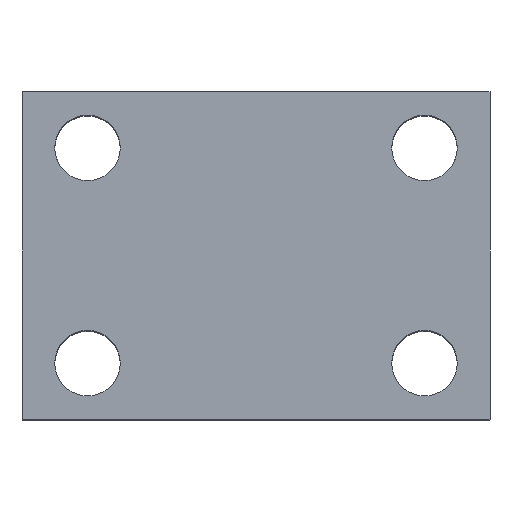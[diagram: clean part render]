
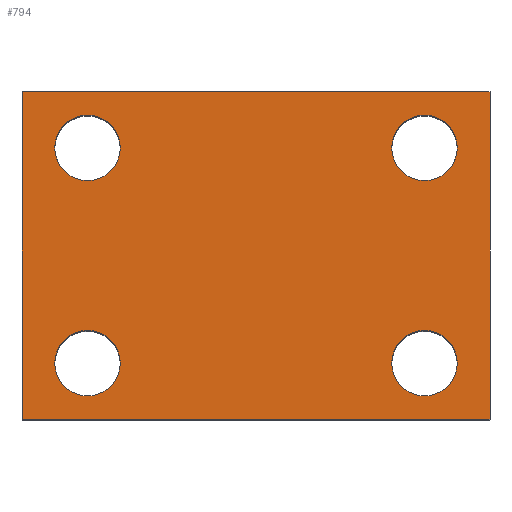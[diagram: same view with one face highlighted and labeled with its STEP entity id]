
A CAD part, top view. The second image highlights one B-rep face of the part: STEP entity #794.
In plain terms, the highlighted planar face has unit normal (0, 0, 1).
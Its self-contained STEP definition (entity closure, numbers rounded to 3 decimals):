
#103 = AXIS2_PLACEMENT_3D ( 'NONE', #9722, #1504, #11087 ) ;
#264 = CIRCLE ( 'NONE', #8173, 3.5 ) ;
#370 = CARTESIAN_POINT ( 'NONE',  ( 18., 29., 40. ) ) ;
#506 = AXIS2_PLACEMENT_3D ( 'NONE', #1613, #12541, #4378 ) ;
#580 = EDGE_CURVE ( 'NONE', #8445, #14776, #264, .T. ) ;
#794 = ADVANCED_FACE ( 'NONE', ( #15425, #8583, #15847, #11798, #8155 ), #16633, .F. ) ;
#916 = CIRCLE ( 'NONE', #12650, 3.5 ) ;
#953 = DIRECTION ( 'NONE',  ( 0., -1., 0. ) ) ;
#964 = CARTESIAN_POINT ( 'NONE',  ( 18., 6., 40. ) ) ;
#1024 = EDGE_CURVE ( 'NONE', #8146, #3020, #14105, .T. ) ;
#1504 = DIRECTION ( 'NONE',  ( 0., 0., -1. ) ) ;
#1613 = CARTESIAN_POINT ( 'NONE',  ( -25., 35., 40. ) ) ;
#1742 = DIRECTION ( 'NONE',  ( -1., 0., 0. ) ) ;
#1746 = CIRCLE ( 'NONE', #5599, 3.5 ) ;
#1778 = CARTESIAN_POINT ( 'NONE',  ( 21.5, 6., 40. ) ) ;
#1821 = VECTOR ( 'NONE', #5293, 1000. ) ;
#1990 = EDGE_LOOP ( 'NONE', ( #17135, #14989, #16465, #2832 ) ) ;
#2027 = CARTESIAN_POINT ( 'NONE',  ( -14.5, 29., 40. ) ) ;
#2258 = LINE ( 'NONE', #17529, #1821 ) ;
#2287 = VERTEX_POINT ( 'NONE', #8759 ) ;
#2344 = DIRECTION ( 'NONE',  ( -1., 0., 0. ) ) ;
#2535 = CARTESIAN_POINT ( 'NONE',  ( 14.5, 6., 40. ) ) ;
#2614 = EDGE_CURVE ( 'NONE', #2287, #14369, #3458, .T. ) ;
#2678 = EDGE_LOOP ( 'NONE', ( #6881, #14215 ) ) ;
#2832 = ORIENTED_EDGE ( 'NONE', *, *, #13776, .T. ) ;
#2863 = CARTESIAN_POINT ( 'NONE',  ( 18., 29., 40. ) ) ;
#2988 = CARTESIAN_POINT ( 'NONE',  ( 14.5, 29., 40. ) ) ;
#3020 = VERTEX_POINT ( 'NONE', #12078 ) ;
#3458 = LINE ( 'NONE', #16963, #4318 ) ;
#4067 = CIRCLE ( 'NONE', #14244, 3.5 ) ;
#4231 = DIRECTION ( 'NONE',  ( -1., 0., 0. ) ) ;
#4318 = VECTOR ( 'NONE', #8756, 1000. ) ;
#4378 = DIRECTION ( 'NONE',  ( -1., 0., 0. ) ) ;
#4557 = CARTESIAN_POINT ( 'NONE',  ( -14.5, 6., 40. ) ) ;
#5065 = EDGE_CURVE ( 'NONE', #14776, #8445, #13576, .T. ) ;
#5114 = AXIS2_PLACEMENT_3D ( 'NONE', #964, #10570, #2344 ) ;
#5127 = VECTOR ( 'NONE', #11929, 1000. ) ;
#5128 = VERTEX_POINT ( 'NONE', #11900 ) ;
#5221 = EDGE_CURVE ( 'NONE', #15146, #13927, #2258, .T. ) ;
#5223 = CARTESIAN_POINT ( 'NONE',  ( 18., 6., 40. ) ) ;
#5293 = DIRECTION ( 'NONE',  ( 1., 0., 0. ) ) ;
#5486 = DIRECTION ( 'NONE',  ( 0., 0., -1. ) ) ;
#5599 = AXIS2_PLACEMENT_3D ( 'NONE', #13774, #5647, #15160 ) ;
#5615 = DIRECTION ( 'NONE',  ( 0., 0., -1. ) ) ;
#5647 = DIRECTION ( 'NONE',  ( 0., 0., -1. ) ) ;
#6340 = EDGE_LOOP ( 'NONE', ( #8204, #14662 ) ) ;
#6570 = DIRECTION ( 'NONE',  ( -1., 0., 0. ) ) ;
#6667 = EDGE_CURVE ( 'NONE', #5128, #16786, #916, .T. ) ;
#6758 = CARTESIAN_POINT ( 'NONE',  ( -25., 0., 40. ) ) ;
#6881 = ORIENTED_EDGE ( 'NONE', *, *, #13522, .T. ) ;
#7140 = ORIENTED_EDGE ( 'NONE', *, *, #580, .T. ) ;
#7405 = EDGE_CURVE ( 'NONE', #3020, #8146, #1746, .T. ) ;
#8146 = VERTEX_POINT ( 'NONE', #4557 ) ;
#8155 = FACE_OUTER_BOUND ( 'NONE', #1990, .T. ) ;
#8173 = AXIS2_PLACEMENT_3D ( 'NONE', #5223, #14719, #6570 ) ;
#8204 = ORIENTED_EDGE ( 'NONE', *, *, #7405, .T. ) ;
#8445 = VERTEX_POINT ( 'NONE', #1778 ) ;
#8571 = CARTESIAN_POINT ( 'NONE',  ( 25., 35., 40. ) ) ;
#8583 = FACE_BOUND ( 'NONE', #6340, .T. ) ;
#8756 = DIRECTION ( 'NONE',  ( 1., 0., 0. ) ) ;
#8759 = CARTESIAN_POINT ( 'NONE',  ( -25., 35., 40. ) ) ;
#9149 = CARTESIAN_POINT ( 'NONE',  ( -25., 35., 40. ) ) ;
#9722 = CARTESIAN_POINT ( 'NONE',  ( -18., 29., 40. ) ) ;
#9792 = EDGE_CURVE ( 'NONE', #13749, #14941, #4067, .T. ) ;
#9962 = DIRECTION ( 'NONE',  ( 0., 0., -1. ) ) ;
#10570 = DIRECTION ( 'NONE',  ( 0., 0., -1. ) ) ;
#11087 = DIRECTION ( 'NONE',  ( -1., 0., 0. ) ) ;
#11135 = CIRCLE ( 'NONE', #13019, 3.5 ) ;
#11798 = FACE_BOUND ( 'NONE', #2678, .T. ) ;
#11900 = CARTESIAN_POINT ( 'NONE',  ( 21.5, 29., 40. ) ) ;
#11929 = DIRECTION ( 'NONE',  ( 0., -1., 0. ) ) ;
#12078 = CARTESIAN_POINT ( 'NONE',  ( -21.5, 6., 40. ) ) ;
#12136 = ORIENTED_EDGE ( 'NONE', *, *, #5065, .T. ) ;
#12358 = CARTESIAN_POINT ( 'NONE',  ( 25., 0., 40. ) ) ;
#12397 = DIRECTION ( 'NONE',  ( 0., 0., -1. ) ) ;
#12541 = DIRECTION ( 'NONE',  ( 0., 0., -1. ) ) ;
#12650 = AXIS2_PLACEMENT_3D ( 'NONE', #2863, #12397, #4231 ) ;
#13019 = AXIS2_PLACEMENT_3D ( 'NONE', #370, #9962, #1742 ) ;
#13225 = CARTESIAN_POINT ( 'NONE',  ( 25., 35., 40. ) ) ;
#13264 = EDGE_LOOP ( 'NONE', ( #13847, #15452 ) ) ;
#13522 = EDGE_CURVE ( 'NONE', #16786, #5128, #11135, .T. ) ;
#13576 = CIRCLE ( 'NONE', #5114, 3.5 ) ;
#13643 = CARTESIAN_POINT ( 'NONE',  ( -18., 29., 40. ) ) ;
#13749 = VERTEX_POINT ( 'NONE', #2027 ) ;
#13752 = CARTESIAN_POINT ( 'NONE',  ( -18., 6., 40. ) ) ;
#13774 = CARTESIAN_POINT ( 'NONE',  ( -18., 6., 40. ) ) ;
#13776 = EDGE_CURVE ( 'NONE', #2287, #15146, #16255, .T. ) ;
#13847 = ORIENTED_EDGE ( 'NONE', *, *, #14815, .T. ) ;
#13927 = VERTEX_POINT ( 'NONE', #12358 ) ;
#14072 = CARTESIAN_POINT ( 'NONE',  ( -21.5, 29., 40. ) ) ;
#14105 = CIRCLE ( 'NONE', #17345, 3.5 ) ;
#14159 = EDGE_CURVE ( 'NONE', #14369, #13927, #16016, .T. ) ;
#14215 = ORIENTED_EDGE ( 'NONE', *, *, #6667, .T. ) ;
#14244 = AXIS2_PLACEMENT_3D ( 'NONE', #13643, #5486, #15006 ) ;
#14369 = VERTEX_POINT ( 'NONE', #8571 ) ;
#14464 = CIRCLE ( 'NONE', #103, 3.5 ) ;
#14662 = ORIENTED_EDGE ( 'NONE', *, *, #1024, .T. ) ;
#14719 = DIRECTION ( 'NONE',  ( 0., 0., -1. ) ) ;
#14776 = VERTEX_POINT ( 'NONE', #2535 ) ;
#14815 = EDGE_CURVE ( 'NONE', #14941, #13749, #14464, .T. ) ;
#14941 = VERTEX_POINT ( 'NONE', #14072 ) ;
#14989 = ORIENTED_EDGE ( 'NONE', *, *, #14159, .F. ) ;
#15006 = DIRECTION ( 'NONE',  ( -1., 0., 0. ) ) ;
#15127 = DIRECTION ( 'NONE',  ( -1., 0., 0. ) ) ;
#15146 = VERTEX_POINT ( 'NONE', #6758 ) ;
#15160 = DIRECTION ( 'NONE',  ( -1., 0., 0. ) ) ;
#15425 = FACE_BOUND ( 'NONE', #13264, .T. ) ;
#15452 = ORIENTED_EDGE ( 'NONE', *, *, #9792, .T. ) ;
#15847 = FACE_BOUND ( 'NONE', #16643, .T. ) ;
#16016 = LINE ( 'NONE', #13225, #5127 ) ;
#16255 = LINE ( 'NONE', #9149, #16694 ) ;
#16465 = ORIENTED_EDGE ( 'NONE', *, *, #2614, .F. ) ;
#16633 = PLANE ( 'NONE',  #506 ) ;
#16643 = EDGE_LOOP ( 'NONE', ( #12136, #7140 ) ) ;
#16694 = VECTOR ( 'NONE', #953, 1000. ) ;
#16786 = VERTEX_POINT ( 'NONE', #2988 ) ;
#16963 = CARTESIAN_POINT ( 'NONE',  ( -25., 35., 40. ) ) ;
#17135 = ORIENTED_EDGE ( 'NONE', *, *, #5221, .T. ) ;
#17345 = AXIS2_PLACEMENT_3D ( 'NONE', #13752, #5615, #15127 ) ;
#17529 = CARTESIAN_POINT ( 'NONE',  ( -25., 0., 40. ) ) ;
